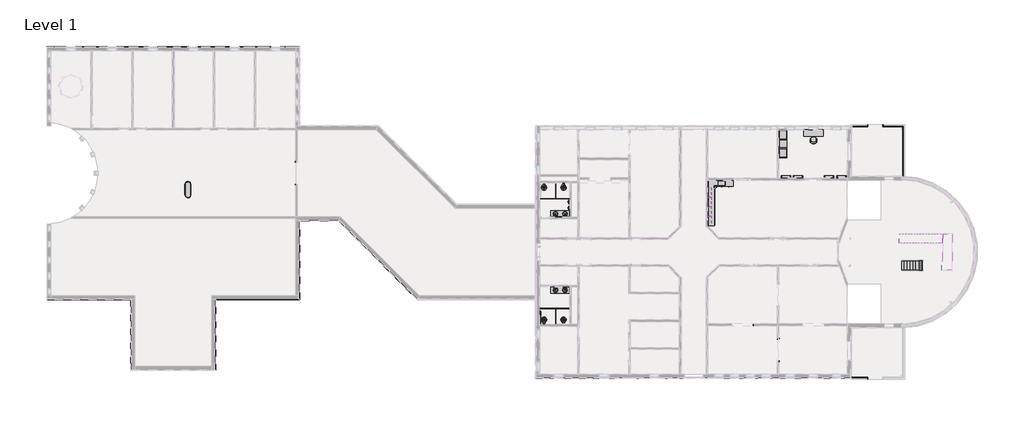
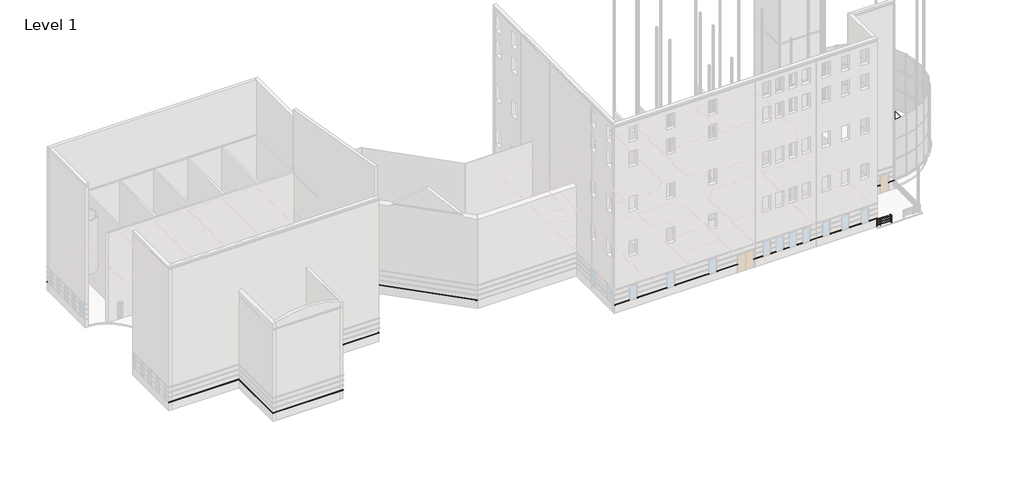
# One storey, part 15 of 16: 21 furniture elements, 21 proxies, 10 flow terminals, 3 railings, 2 stair flights, 1 slab.
"""IFC4 building model written with IfcOpenShell, lengths in millimetres."""

from ifc_helpers import new_model, si_unit, origin, place, context, project, spatial, faceted_brep, transform, mapped, element, save
from components import proxy_3a9288d3, proxy_226d7026, proxy_8b2fbeef, proxy_e5c07f1c, proxy_0c3c478f, proxy_987fb3b0, landing_landing_48b65c4f, flow_terminal_d49f872f, flow_terminal_951b6bfb, flow_terminal_ad1f76ec, flow_terminal_9b457be9, urinal_wall_3d_urinal_wall_3d_70306c78, furniture_6a014568, furniture_b6fbc004, furniture_5bfe328f, chair_executive_chair_executive_8d69e98c, corner_base_filler_corner_base_filler_53cc3308, furniture_f064a22f, furniture_7b927048, furniture_090a490d, furniture_7a7a8658, furniture_59f9536b, furniture_417d203a, furniture_ea8d62be, handrail_pipe_b2938140, handrail_pipe_65aaea4b, handrail_pipe_f52d8f37, non_monolithic_landing_d1dade7f, stair_flight_67c8fb9e, stair_flight_26c96a99

model = new_model("IFC4")

# Units and contexts
model_context = context("Model", 3, world=origin())
ifc_project = project(units=[si_unit("LENGTHUNIT", "METRE", prefix="MILLI")], contexts=[model_context])

# Site, building, storey
site = spatial("IfcSite", under=ifc_project)
building = spatial("IfcBuilding", under=site)
storey = spatial("IfcBuildingStorey", under=building, Name="Level 1", Elevation=0.0)

# Proxies
placement = place(None, origin())
element("IfcBuildingElementProxy", 1, Name="Wall Sweeps", at=placement, inside=storey, context=model_context, shape_type="Brep", body=[
    faceted_brep([(-18533.512755, -6670.8262891, 1085.85), (-18533.512755, -6762.9012891, 1085.85), (-18533.512755, -6797.8262891, 1041.4), (-18533.512755, -6797.8262891, 1016.0), (-18533.512755, -6762.9012891, 1016.0), (-18533.512755, -6670.8262891, 1016.0), (-20165.462755, -6670.8262891, 1085.85), (-20165.462755, -6670.8262891, 1016.0), (-20292.462755, -6797.8262891, 1016.0), (-20292.462755, -6797.8262891, 1041.4), (-20257.537755, -6762.9012891, 1085.85)], [[[0, 1, 2, 3, 4, 5]], [[6, 7, 8, 9, 10]], [[1, 0, 6, 10]], [[2, 1, 10, 9]], [[3, 2, 9, 8]], [[5, 4, 3, 8, 7]], [[0, 5, 7, 6]]]),
    faceted_brep([(-14163.125255, -6670.8262891, 1085.85), (-14163.125255, -6762.9012891, 1085.85), (-14163.125255, -6797.8262891, 1041.4), (-14163.125255, -6797.8262891, 1016.0), (-14163.125255, -6762.9012891, 1016.0), (-14163.125255, -6670.8262891, 1016.0), (-17619.112755, -6670.8262891, 1085.85), (-17619.112755, -6670.8262891, 1016.0), (-17619.112755, -6762.9012891, 1016.0), (-17619.112755, -6797.8262891, 1016.0), (-17619.112755, -6797.8262891, 1041.4), (-17619.112755, -6762.9012891, 1085.85)], [[[0, 1, 2, 3, 4, 5]], [[6, 7, 8, 9, 10, 11]], [[1, 0, 6, 11]], [[2, 1, 11, 10]], [[3, 2, 10, 9]], [[5, 4, 3, 9, 8, 7]], [[0, 5, 7, 6]]]),
    faceted_brep([(-9286.325255, -6670.8262891, 1085.85), (-9286.325255, -6762.9012891, 1085.85), (-9286.325255, -6797.8262891, 1041.4), (-9286.325255, -6797.8262891, 1016.0), (-9286.325255, -6762.9012891, 1016.0), (-9286.325255, -6670.8262891, 1016.0), (-13248.725255, -6670.8262891, 1085.85), (-13248.725255, -6670.8262891, 1016.0), (-13248.725255, -6762.9012891, 1016.0), (-13248.725255, -6797.8262891, 1016.0), (-13248.725255, -6797.8262891, 1041.4), (-13248.725255, -6762.9012891, 1085.85)], [[[0, 1, 2, 3, 4, 5]], [[6, 7, 8, 9, 10, 11]], [[1, 0, 6, 11]], [[2, 1, 11, 10]], [[3, 2, 10, 9]], [[5, 4, 3, 9, 8, 7]], [[0, 5, 7, 6]]]),
    faceted_brep([(-5931.937755, -6670.8262891, 1085.85), (-5931.937755, -6762.9012891, 1085.85), (-5931.937755, -6797.8262891, 1041.4), (-5931.937755, -6797.8262891, 1016.0), (-5931.937755, -6762.9012891, 1016.0), (-5931.937755, -6670.8262891, 1016.0), (-8371.925255, -6670.8262891, 1085.85), (-8371.925255, -6670.8262891, 1016.0), (-8371.925255, -6762.9012891, 1016.0), (-8371.925255, -6797.8262891, 1016.0), (-8371.925255, -6797.8262891, 1041.4), (-8371.925255, -6762.9012891, 1085.85)], [[[0, 1, 2, 3, 4, 5]], [[6, 7, 8, 9, 10, 11]], [[1, 0, 6, 11]], [[2, 1, 11, 10]], [[3, 2, 10, 9]], [[5, 4, 3, 9, 8, 7]], [[0, 5, 7, 6]]]),
    faceted_brep([(-3037.925255, -6670.8262891, 1085.85), (-3037.925255, -6762.9012891, 1085.85), (-3037.925255, -6797.8262891, 1041.4), (-3037.925255, -6797.8262891, 1016.0), (-3037.925255, -6762.9012891, 1016.0), (-3037.925255, -6670.8262891, 1016.0), (-4103.137755, -6670.8262891, 1085.85), (-4103.137755, -6670.8262891, 1016.0), (-4103.137755, -6762.9012891, 1016.0), (-4103.137755, -6797.8262891, 1016.0), (-4103.137755, -6797.8262891, 1041.4), (-4103.137755, -6762.9012891, 1085.85)], [[[0, 1, 2, 3, 4, 5]], [[6, 7, 8, 9, 10, 11]], [[1, 0, 6, 11]], [[2, 1, 11, 10]], [[3, 2, 10, 9]], [[5, 4, 3, 9, 8, 7]], [[0, 5, 7, 6]]]),
    faceted_brep([(-1509.162755, -6670.8262891, 1085.85), (-1509.162755, -6762.9012891, 1085.85), (-1509.162755, -6797.8262891, 1041.4), (-1509.162755, -6797.8262891, 1016.0), (-1509.162755, -6762.9012891, 1016.0), (-1509.162755, -6670.8262891, 1016.0), (-2123.525255, -6670.8262891, 1085.85), (-2123.525255, -6670.8262891, 1016.0), (-2123.525255, -6762.9012891, 1016.0), (-2123.525255, -6797.8262891, 1016.0), (-2123.525255, -6797.8262891, 1041.4), (-2123.525255, -6762.9012891, 1085.85)], [[[0, 1, 2, 3, 4, 5]], [[6, 7, 8, 9, 10, 11]], [[1, 0, 6, 11]], [[2, 1, 11, 10]], [[3, 2, 10, 9]], [[5, 4, 3, 9, 8, 7]], [[0, 5, 7, 6]]]),
    faceted_brep([(19.599745, -6670.8262891, 1085.85), (19.599745, -6762.9012891, 1085.85), (19.599745, -6797.8262891, 1041.4), (19.599745, -6797.8262891, 1016.0), (19.599745, -6762.9012891, 1016.0), (19.599745, -6670.8262891, 1016.0), (-594.762755, -6670.8262891, 1085.85), (-594.762755, -6670.8262891, 1016.0), (-594.762755, -6762.9012891, 1016.0), (-594.762755, -6797.8262891, 1016.0), (-594.762755, -6797.8262891, 1041.4), (-594.762755, -6762.9012891, 1085.85)], [[[0, 1, 2, 3, 4, 5]], [[6, 7, 8, 9, 10, 11]], [[1, 0, 6, 11]], [[2, 1, 11, 10]], [[3, 2, 10, 9]], [[5, 4, 3, 9, 8, 7]], [[0, 5, 7, 6]]]),
    faceted_brep([(1548.362245, -6670.8262891, 1085.85), (1548.362245, -6762.9012891, 1085.85), (1548.362245, -6797.8262891, 1041.4), (1548.362245, -6797.8262891, 1016.0), (1548.362245, -6762.9012891, 1016.0), (1548.362245, -6670.8262891, 1016.0), (933.999745, -6670.8262891, 1085.85), (933.999745, -6670.8262891, 1016.0), (933.999745, -6762.9012891, 1016.0), (933.999745, -6797.8262891, 1016.0), (933.999745, -6797.8262891, 1041.4), (933.999745, -6762.9012891, 1085.85)], [[[0, 1, 2, 3, 4, 5]], [[6, 7, 8, 9, 10, 11]], [[1, 0, 6, 11]], [[2, 1, 11, 10]], [[3, 2, 10, 9]], [[5, 4, 3, 9, 8, 7]], [[0, 5, 7, 6]]]),
    faceted_brep([(3864.524745, -6670.8262891, 1085.85), (3864.524745, -6762.9012891, 1085.85), (3864.524745, -6797.8262891, 1041.4), (3864.524745, -6797.8262891, 1016.0), (3864.524745, -6762.9012891, 1016.0), (3864.524745, -6670.8262891, 1016.0), (2462.762245, -6670.8262891, 1085.85), (2462.762245, -6670.8262891, 1016.0), (2462.762245, -6762.9012891, 1016.0), (2462.762245, -6797.8262891, 1016.0), (2462.762245, -6797.8262891, 1041.4), (2462.762245, -6762.9012891, 1085.85)], [[[0, 1, 2, 3, 4, 5]], [[6, 7, 8, 9, 10, 11]], [[1, 0, 6, 11]], [[2, 1, 11, 10]], [[3, 2, 10, 9]], [[5, 4, 3, 9, 8, 7]], [[0, 5, 7, 6]]]),
    faceted_brep([(6105.280995, -6670.8262891, 1085.85), (6105.280995, -6762.9012891, 1085.85), (6105.280995, -6797.8262891, 1041.4), (6105.280995, -6797.8262891, 1016.0), (6105.280995, -6762.9012891, 1016.0), (6105.280995, -6670.8262891, 1016.0), (4778.924745, -6670.8262891, 1085.85), (4778.924745, -6670.8262891, 1016.0), (4778.924745, -6762.9012891, 1016.0), (4778.924745, -6797.8262891, 1016.0), (4778.924745, -6797.8262891, 1041.4), (4778.924745, -6762.9012891, 1085.85)], [[[0, 1, 2, 3, 4, 5]], [[6, 7, 8, 9, 10, 11]], [[1, 0, 6, 11]], [[2, 1, 11, 10]], [[3, 2, 10, 9]], [[5, 4, 3, 9, 8, 7]], [[0, 5, 7, 6]]]),
    faceted_brep([(8346.037245, -6670.8262891, 1085.85), (8346.037245, -6762.9012891, 1085.85), (8346.037245, -6797.8262891, 1041.4), (8346.037245, -6797.8262891, 1016.0), (8346.037245, -6762.9012891, 1016.0), (8346.037245, -6670.8262891, 1016.0), (7019.680995, -6670.8262891, 1085.85), (7019.680995, -6670.8262891, 1016.0), (7019.680995, -6762.9012891, 1016.0), (7019.680995, -6797.8262891, 1016.0), (7019.680995, -6797.8262891, 1041.4), (7019.680995, -6762.9012891, 1085.85)], [[[0, 1, 2, 3, 4, 5]], [[6, 7, 8, 9, 10, 11]], [[1, 0, 6, 11]], [[2, 1, 11, 10]], [[3, 2, 10, 9]], [[5, 4, 3, 9, 8, 7]], [[0, 5, 7, 6]]]),
    faceted_brep([(10130.387245, -6670.8262891, 1085.85), (10222.462245, -6762.9012891, 1085.85), (10257.387245, -6797.8262891, 1041.4), (10257.387245, -6797.8262891, 1016.0), (10130.387245, -6670.8262891, 1016.0), (9260.437245, -6670.8262891, 1085.85), (9260.437245, -6670.8262891, 1016.0), (9260.437245, -6762.9012891, 1016.0), (9260.437245, -6797.8262891, 1016.0), (9260.437245, -6797.8262891, 1041.4), (9260.437245, -6762.9012891, 1085.85)], [[[0, 1, 2, 3, 4]], [[5, 6, 7, 8, 9, 10]], [[1, 0, 5, 10]], [[2, 1, 10, 9]], [[3, 2, 9, 8]], [[4, 3, 8, 7, 6]], [[0, 4, 6, 5]]]),
])
element("IfcBuildingElementProxy", 2, Name="Wall Sweeps", at=placement, inside=storey, context=model_context, shape_type="Brep", body=[
    faceted_brep([(10130.387245, -6670.8262891, 1085.85), (10130.387245, -6670.8262891, 1016.0), (10257.387245, -6797.8262891, 1016.0), (10257.387245, -6797.8262891, 1041.4), (10222.462245, -6762.9012891, 1085.85), (10130.387245, -5062.6887891, 1085.85), (10222.462245, -5062.6887891, 1085.85), (10257.387245, -5062.6887891, 1041.4), (10257.387245, -5062.6887891, 1016.0), (10222.462245, -5062.6887891, 1016.0), (10130.387245, -5062.6887891, 1016.0), (10130.387245, -6410.4762891, 1085.85), (10130.387245, -6410.4762891, 1016.0)], [[[0, 1, 2, 3, 4]], [[5, 6, 7, 8, 9, 10]], [[0, 4, 6, 5, 11]], [[4, 3, 7, 6]], [[3, 2, 8, 7]], [[2, 1, 12, 10, 9, 8]], [[1, 0, 11, 5, 10, 12]]]),
    faceted_brep([(10130.387245, -3233.8887891, 1085.85), (10130.387245, -3233.8887891, 1016.0), (10222.462245, -3233.8887891, 1016.0), (10257.387245, -3233.8887891, 1016.0), (10257.387245, -3233.8887891, 1041.4), (10222.462245, -3233.8887891, 1085.85), (10130.387245, -1794.0262891, 1085.85), (10222.462245, -1886.1012891, 1085.85), (10257.387245, -1921.0262891, 1041.4), (10257.387245, -1921.0262891, 1016.0), (10222.462245, -1886.1012891, 1016.0), (10130.387245, -1794.0262891, 1016.0)], [[[0, 1, 2, 3, 4, 5]], [[6, 7, 8, 9, 10, 11]], [[1, 0, 6, 11]], [[3, 2, 1, 11, 10, 9]], [[4, 3, 9, 8]], [[5, 4, 8, 7]], [[0, 5, 7, 6]]]),
])
element("IfcBuildingElementProxy", 3, Name="Wall Sweeps", at=placement, inside=storey, context=model_context, shape_type="Brep", body=[
    faceted_brep([(10130.387245, -1794.0262891, 1085.85), (10130.387245, -1794.0262891, 1016.0), (10222.462245, -1886.1012891, 1016.0), (10257.387245, -1921.0262891, 1016.0), (10257.387245, -1921.0262891, 1041.4), (10222.462245, -1886.1012891, 1085.85), (13416.512245, -1794.0262891, 1085.85), (13416.512245, -1886.1012891, 1085.85), (13416.512245, -1921.0262891, 1041.4), (13416.512245, -1921.0262891, 1016.0), (13416.512245, -1886.1012891, 1016.0), (13416.512245, -1794.0262891, 1016.0)], [[[0, 1, 2, 3, 4, 5]], [[6, 7, 8, 9, 10, 11]], [[0, 5, 7, 6]], [[5, 4, 8, 7]], [[4, 3, 9, 8]], [[3, 2, 1, 11, 10, 9]], [[1, 0, 6, 11]]]),
    faceted_brep([(14330.912245, -1794.0262891, 1085.85), (14330.912245, -1794.0262891, 1016.0), (14330.912245, -1886.1012891, 1016.0), (14330.912245, -1921.0262891, 1016.0), (14330.912245, -1921.0262891, 1041.4), (14330.912245, -1886.1012891, 1085.85), (15099.262245, -1794.0262891, 1085.85), (15099.262245, -1886.1012891, 1085.85), (15099.262245, -1921.0262891, 1041.4), (15099.262245, -1921.0262891, 1016.0), (15099.262245, -1886.1012891, 1016.0), (15099.262245, -1794.0262891, 1016.0)], [[[0, 1, 2, 3, 4, 5]], [[6, 7, 8, 9, 10, 11]], [[1, 0, 6, 11]], [[3, 2, 1, 11, 10, 9]], [[4, 3, 9, 8]], [[5, 4, 8, 7]], [[0, 5, 7, 6]]]),
])
element("IfcBuildingElementProxy", 4, Name="Wall Sweeps", at=placement, inside=storey, context=model_context, shape_type="Brep", body=[
    faceted_brep([(-43282.6023623, 25149.0237109, 1085.85), (-43282.6023623, 25149.0237109, 1016.0), (-43155.6023623, 25276.0237109, 1016.0), (-43155.6023623, 25276.0237109, 1041.4), (-43190.5273623, 25241.0987109, 1085.85), (-45015.887779, 25149.0237109, 1085.85), (-45015.887779, 25241.0987109, 1085.85), (-45015.887779, 25276.0237109, 1041.4), (-45015.887779, 25276.0237109, 1016.0), (-45015.887779, 25241.0987109, 1016.0), (-45015.887779, 25149.0237109, 1016.0), (-43542.9523623, 25149.0237109, 1085.85), (-43542.9523623, 25149.0237109, 1016.0)], [[[0, 1, 2, 3, 4]], [[5, 6, 7, 8, 9, 10]], [[1, 0, 11, 5, 10, 12]], [[2, 1, 12, 10, 9, 8]], [[3, 2, 8, 7]], [[4, 3, 7, 6]], [[0, 4, 6, 5, 11]]]),
    faceted_brep([(-45930.287779, 25149.0237109, 1085.85), (-45930.287779, 25149.0237109, 1016.0), (-45930.287779, 25241.0987109, 1016.0), (-45930.287779, 25276.0237109, 1016.0), (-45930.287779, 25276.0237109, 1041.4), (-45930.287779, 25241.0987109, 1085.85), (-48999.1898623, 25149.0237109, 1085.85), (-48999.1898623, 25241.0987109, 1085.85), (-48999.1898623, 25276.0237109, 1041.4), (-48999.1898623, 25276.0237109, 1016.0), (-48999.1898623, 25241.0987109, 1016.0), (-48999.1898623, 25149.0237109, 1016.0)], [[[0, 1, 2, 3, 4, 5]], [[6, 7, 8, 9, 10, 11]], [[1, 0, 6, 11]], [[3, 2, 1, 11, 10, 9]], [[4, 3, 9, 8]], [[5, 4, 8, 7]], [[0, 5, 7, 6]]]),
    faceted_brep([(-49913.5898623, 25149.0237109, 1085.85), (-49913.5898623, 25149.0237109, 1016.0), (-49913.5898623, 25241.0987109, 1016.0), (-49913.5898623, 25276.0237109, 1016.0), (-49913.5898623, 25276.0237109, 1041.4), (-49913.5898623, 25241.0987109, 1085.85), (-52949.9481957, 25149.0237109, 1085.85), (-52949.9481957, 25241.0987109, 1085.85), (-52949.9481957, 25276.0237109, 1041.4), (-52949.9481957, 25276.0237109, 1016.0), (-52949.9481957, 25241.0987109, 1016.0), (-52949.9481957, 25149.0237109, 1016.0)], [[[0, 1, 2, 3, 4, 5]], [[6, 7, 8, 9, 10, 11]], [[1, 0, 6, 11]], [[3, 2, 1, 11, 10, 9]], [[4, 3, 9, 8]], [[5, 4, 8, 7]], [[0, 5, 7, 6]]]),
    faceted_brep([(-53864.3481957, 25149.0237109, 1085.85), (-53864.3481957, 25149.0237109, 1016.0), (-53864.3481957, 25241.0987109, 1016.0), (-53864.3481957, 25276.0237109, 1016.0), (-53864.3481957, 25276.0237109, 1041.4), (-53864.3481957, 25241.0987109, 1085.85), (-56900.706529, 25149.0237109, 1085.85), (-56900.706529, 25241.0987109, 1085.85), (-56900.706529, 25276.0237109, 1041.4), (-56900.706529, 25276.0237109, 1016.0), (-56900.706529, 25241.0987109, 1016.0), (-56900.706529, 25149.0237109, 1016.0)], [[[0, 1, 2, 3, 4, 5]], [[6, 7, 8, 9, 10, 11]], [[1, 0, 6, 11]], [[3, 2, 1, 11, 10, 9]], [[4, 3, 9, 8]], [[5, 4, 8, 7]], [[0, 5, 7, 6]]]),
    faceted_brep([(-57815.106529, 25149.0237109, 1085.85), (-57815.106529, 25149.0237109, 1016.0), (-57815.106529, 25241.0987109, 1016.0), (-57815.106529, 25276.0237109, 1016.0), (-57815.106529, 25276.0237109, 1041.4), (-57815.106529, 25241.0987109, 1085.85), (-60851.4648623, 25149.0237109, 1085.85), (-60851.4648623, 25241.0987109, 1085.85), (-60851.4648623, 25276.0237109, 1041.4), (-60851.4648623, 25276.0237109, 1016.0), (-60851.4648623, 25241.0987109, 1016.0), (-60851.4648623, 25149.0237109, 1016.0)], [[[0, 1, 2, 3, 4, 5]], [[6, 7, 8, 9, 10, 11]], [[1, 0, 6, 11]], [[3, 2, 1, 11, 10, 9]], [[4, 3, 9, 8]], [[5, 4, 8, 7]], [[0, 5, 7, 6]]]),
    faceted_brep([(-61765.8648623, 25149.0237109, 1085.85), (-61765.8648623, 25149.0237109, 1016.0), (-61765.8648623, 25241.0987109, 1016.0), (-61765.8648623, 25276.0237109, 1016.0), (-61765.8648623, 25276.0237109, 1041.4), (-61765.8648623, 25241.0987109, 1085.85), (-64834.7669457, 25149.0237109, 1085.85), (-64834.7669457, 25241.0987109, 1085.85), (-64834.7669457, 25276.0237109, 1041.4), (-64834.7669457, 25276.0237109, 1016.0), (-64834.7669457, 25241.0987109, 1016.0), (-64834.7669457, 25149.0237109, 1016.0)], [[[0, 1, 2, 3, 4, 5]], [[6, 7, 8, 9, 10, 11]], [[1, 0, 6, 11]], [[3, 2, 1, 11, 10, 9]], [[4, 3, 9, 8]], [[5, 4, 8, 7]], [[0, 5, 7, 6]]]),
    faceted_brep([(-65749.1669457, 25149.0237109, 1085.85), (-65749.1669457, 25149.0237109, 1016.0), (-65749.1669457, 25241.0987109, 1016.0), (-65749.1669457, 25276.0237109, 1016.0), (-65749.1669457, 25276.0237109, 1041.4), (-65749.1669457, 25241.0987109, 1085.85), (-67482.4523623, 25149.0237109, 1085.85), (-67574.5273623, 25241.0987109, 1085.85), (-67609.4523623, 25276.0237109, 1041.4), (-67609.4523623, 25276.0237109, 1016.0), (-67482.4523623, 25149.0237109, 1016.0)], [[[0, 1, 2, 3, 4, 5]], [[6, 7, 8, 9, 10]], [[1, 0, 6, 10]], [[3, 2, 1, 10, 9]], [[4, 3, 9, 8]], [[5, 4, 8, 7]], [[0, 5, 7, 6]]]),
])
element("IfcBuildingElementProxy", 5, Name="Wall Sweeps", at=placement, inside=storey, context=model_context, shape_type="Brep", body=[
    faceted_brep([(-67482.4523623, 949.1737109, 1085.85), (-67482.4523623, 949.1737109, 1016.0), (-67609.4523623, 822.1737109, 1016.0), (-67609.4523623, 822.1737109, 1041.4), (-67574.5273623, 857.0987109, 1085.85), (-59354.4523623, 949.1737109, 1085.85), (-59446.5273623, 857.0987109, 1085.85), (-59481.4523623, 822.1737109, 1041.4), (-59481.4523623, 822.1737109, 1016.0), (-59354.4523623, 949.1737109, 1016.0), (-67222.1023623, 949.1737109, 1085.85), (-67222.1023623, 949.1737109, 1016.0)], [[[0, 1, 2, 3, 4]], [[5, 6, 7, 8, 9]], [[1, 0, 10, 5, 9, 11]], [[2, 1, 11, 9, 8]], [[3, 2, 8, 7]], [[4, 3, 7, 6]], [[0, 4, 6, 5, 10]]]),
    faceted_brep([(-51410.6023623, 949.1737109, 1085.85), (-51410.6023623, 949.1737109, 1016.0), (-51283.6023623, 822.1737109, 1016.0), (-51283.6023623, 822.1737109, 1041.4), (-51318.5273623, 857.0987109, 1085.85), (-43282.6023623, 949.1737109, 1085.85), (-43190.5273623, 857.0987109, 1085.85), (-43155.6023623, 822.1737109, 1041.4), (-43155.6023623, 822.1737109, 1016.0), (-43282.6023623, 949.1737109, 1016.0)], [[[0, 1, 2, 3, 4]], [[5, 6, 7, 8, 9]], [[1, 0, 5, 9]], [[2, 1, 9, 8]], [[3, 2, 8, 7]], [[4, 3, 7, 6]], [[0, 4, 6, 5]]]),
])
element("IfcBuildingElementProxy", 6, Name="Wall Sweeps", at=placement, inside=storey, context=model_context, shape_type="Brep", body=[
    faceted_brep([(-43282.6023623, 949.1737109, 1085.85), (-43282.6023623, 949.1737109, 1016.0), (-43155.6023623, 822.1737109, 1016.0), (-43155.6023623, 822.1737109, 1041.4), (-43190.5273623, 857.0987109, 1085.85), (-43282.6023623, 8569.1737109, 1085.85), (-43190.5273623, 8477.0987109, 1085.85), (-43155.6023623, 8442.1737109, 1041.4), (-43155.6023623, 8442.1737109, 1016.0), (-43282.6023623, 8569.1737109, 1016.0), (-43282.6023623, 1209.5237109, 1085.85), (-43282.6023623, 8477.0987109, 1085.85), (-43282.6023623, 8477.0987109, 1016.0), (-43282.6023623, 1209.5237109, 1016.0)], [[[0, 1, 2, 3, 4]], [[5, 6, 7, 8, 9]], [[1, 0, 10, 11, 5, 9, 12, 13]], [[2, 1, 13, 12, 9, 8]], [[3, 2, 8, 7]], [[4, 3, 7, 6]], [[0, 4, 6, 5, 11, 10]]]),
])
element("IfcBuildingElementProxy", 7, Name="Wall Sweeps", at=placement, inside=storey, context=model_context, shape_type="Brep", body=[
    faceted_brep([(-39319.9574629, 8569.1737109, 1085.85), (-39358.0961767, 8477.0987109, 1085.85), (-39372.5625853, 8442.1737109, 1041.4), (-39372.5625853, 8442.1737109, 1016.0), (-39358.0961767, 8477.0987109, 1016.0), (-39319.9574629, 8569.1737109, 1016.0), (-43282.6023623, 8569.1737109, 1085.85), (-43282.6023623, 8569.1737109, 1016.0), (-43155.6023623, 8442.1737109, 1016.0), (-43155.6023623, 8442.1737109, 1041.4), (-43190.5273623, 8477.0987109, 1085.85)], [[[0, 1, 2, 3, 4, 5]], [[6, 7, 8, 9, 10]], [[1, 0, 6, 10]], [[2, 1, 10, 9]], [[3, 2, 9, 8]], [[5, 4, 3, 8, 7]], [[0, 5, 7, 6]]]),
])
element("IfcBuildingElementProxy", 8, Name="Wall Sweeps", at=placement, inside=storey, context=model_context, shape_type="Brep", body=[
    faceted_brep([(-31699.9574629, 949.1737109, 1085.85), (-31738.0961767, 857.0987109, 1085.85), (-31752.5625853, 822.1737109, 1041.4), (-31752.5625853, 822.1737109, 1016.0), (-31738.0961767, 857.0987109, 1016.0), (-31699.9574629, 949.1737109, 1016.0), (-39319.9574629, 8569.1737109, 1085.85), (-39319.9574629, 8569.1737109, 1016.0), (-39358.0961767, 8477.0987109, 1016.0), (-39372.5625853, 8442.1737109, 1016.0), (-39372.5625853, 8442.1737109, 1041.4), (-39358.0961767, 8477.0987109, 1085.85)], [[[0, 1, 2, 3, 4, 5]], [[6, 7, 8, 9, 10, 11]], [[1, 0, 6, 11]], [[2, 1, 11, 10]], [[3, 2, 10, 9]], [[5, 4, 3, 9, 8, 7]], [[0, 5, 7, 6]]]),
])
element("IfcBuildingElementProxy", 9, Name="Wall Sweeps", at=placement, inside=storey, context=model_context, shape_type="Brep", body=[
    faceted_brep([(-51410.6023623, 949.1737109, 1085.85), (-51318.5273623, 857.0987109, 1085.85), (-51283.6023623, 822.1737109, 1041.4), (-51283.6023623, 822.1737109, 1016.0), (-51410.6023623, 949.1737109, 1016.0), (-51410.6023623, -5908.8262891, 1085.85), (-51410.6023623, -5908.8262891, 1016.0), (-51283.6023623, -6035.8262891, 1016.0), (-51283.6023623, -6035.8262891, 1041.4), (-51318.5273623, -6000.9012891, 1085.85), (-51410.6023623, 857.0987109, 1085.85), (-51410.6023623, 857.0987109, 1016.0)], [[[0, 1, 2, 3, 4]], [[5, 6, 7, 8, 9]], [[1, 0, 10, 5, 9]], [[2, 1, 9, 8]], [[3, 2, 8, 7]], [[4, 3, 7, 6, 11]], [[0, 4, 11, 6, 5, 10]]]),
])
element("IfcBuildingElementProxy", 10, Name="Wall Sweeps", at=placement, inside=storey, context=model_context, shape_type="Brep", body=[
    faceted_brep([(-59354.4523623, -5908.8262891, 1085.85), (-59446.5273623, -6000.9012891, 1085.85), (-59481.4523623, -6035.8262891, 1041.4), (-59481.4523623, -6035.8262891, 1016.0), (-59354.4523623, -5908.8262891, 1016.0), (-59354.4523623, 949.1737109, 1085.85), (-59354.4523623, 949.1737109, 1016.0), (-59481.4523623, 822.1737109, 1016.0), (-59481.4523623, 822.1737109, 1041.4), (-59446.5273623, 857.0987109, 1085.85), (-59354.4523623, 857.0987109, 1085.85), (-59354.4523623, 857.0987109, 1016.0)], [[[0, 1, 2, 3, 4]], [[5, 6, 7, 8, 9]], [[1, 0, 10, 5, 9]], [[2, 1, 9, 8]], [[3, 2, 8, 7]], [[4, 3, 7, 6, 11]], [[0, 4, 11, 6, 5, 10]]]),
])
element("IfcBuildingElementProxy", 11, Name="Wall Sweeps", at=placement, inside=storey, context=model_context, shape_type="Brep", body=[
    faceted_brep([(-59354.4523623, -5908.8262891, 1085.85), (-59354.4523623, -5908.8262891, 1016.0), (-59481.4523623, -6035.8262891, 1016.0), (-59481.4523623, -6035.8262891, 1041.4), (-59446.5273623, -6000.9012891, 1085.85), (-51410.6023623, -5908.8262891, 1085.85), (-51318.5273623, -6000.9012891, 1085.85), (-51283.6023623, -6035.8262891, 1041.4), (-51283.6023623, -6035.8262891, 1016.0), (-51410.6023623, -5908.8262891, 1016.0), (-59094.1023623, -5908.8262891, 1085.85), (-51670.9523623, -5908.8262891, 1085.85), (-51670.9523623, -5908.8262891, 1016.0), (-59094.1023623, -5908.8262891, 1016.0)], [[[0, 1, 2, 3, 4]], [[5, 6, 7, 8, 9]], [[1, 0, 10, 11, 5, 9, 12, 13]], [[2, 1, 13, 12, 9, 8]], [[3, 2, 8, 7]], [[4, 3, 7, 6]], [[0, 4, 6, 5, 11, 10]]]),
])
proxy_shape = proxy_3a9288d3(model_context)
element("IfcBuildingElementProxy", 12, Name="Grab Bar : 4'-0\" Length", ObjectType="Grab Bar : 4'-0\" Length", at=placement, inside=storey, context=model_context, shape_type="MappedRepresentation", body=[
    mapped(proxy_shape, transform((-20081.325255, -882.8012891, 0.0), x_axis=(0.0, 1.0, 0.0), y_axis=(-1.0, 0.0, 0.0), z_axis=(0.0, 0.0, 1.0))),
])
proxy_2_shape = proxy_226d7026(model_context)
element("IfcBuildingElementProxy", 13, Name="Opening-Cased : 84\" x 84\"", ObjectType="Opening-Cased : 84\" x 84\"", at=placement, inside=storey, context=model_context, shape_type="MappedRepresentation", body=[
    mapped(proxy_2_shape, transform((-43465.1648623, 13040.9100542, 0.0), x_axis=(0.0, -1.0, 0.0), y_axis=(1.0, 0.0, 0.0), z_axis=(0.0, 0.0, 1.0))),
])
element("IfcBuildingElementProxy", 14, Name="Opening-Cased : 84\" x 84\"", ObjectType="Opening-Cased : 84\" x 84\"", at=placement, inside=storey, context=model_context, shape_type="MappedRepresentation", body=[
    mapped(proxy_2_shape, transform((3162.849745, -4058.0524458, 0.0), x_axis=(0.0, -1.0, 0.0), y_axis=(1.0, 0.0, 0.0), z_axis=(0.0, 0.0, 1.0))),
])
element("IfcBuildingElementProxy", 15, Name="Opening-Cased : 84\" x 84\"", ObjectType="Opening-Cased : 84\" x 84\"", at=placement, inside=storey, context=model_context, shape_type="MappedRepresentation", body=[
    mapped(proxy_2_shape, transform((-270.6615983, -1611.4637891, 0.0), x_axis=(1.0, 0.0, 0.0), y_axis=(0.0, 1.0, 0.0), z_axis=(0.0, 0.0, 1.0))),
])
element("IfcBuildingElementProxy", 16, Name="Opening-Cased : 84\" x 84\"", ObjectType="Opening-Cased : 84\" x 84\"", at=placement, inside=storey, context=model_context, shape_type="MappedRepresentation", body=[
    mapped(proxy_2_shape, transform((6563.5259017, -1611.4637891, 0.0), x_axis=(1.0, 0.0, 0.0), y_axis=(0.0, 1.0, 0.0), z_axis=(0.0, 0.0, 1.0))),
])
proxy_3_shape = proxy_8b2fbeef(model_context)
element("IfcBuildingElementProxy", 17, Name="Toilet Stall-Accessible-Front-3D : 60\" x 60\" Clear", ObjectType="Toilet Stall-Accessible-Front-3D : 60\" x 60\" Clear", at=placement, inside=storey, context=model_context, shape_type="MappedRepresentation", body=[
    mapped(proxy_3_shape, transform((-18433.4096012, 12199.7862109, 0.0), x_axis=(-1.0, 0.0, 0.0), y_axis=(0.0, -1.0, 0.0), z_axis=(0.0, 0.0, 1.0))),
])
proxy_4_shape = proxy_e5c07f1c(model_context)
element("IfcBuildingElementProxy", 18, Name="Toilet Stall-Accessible-Front-3D : 60\" x 60\" Clear", ObjectType="Toilet Stall-Accessible-Front-3D : 60\" x 60\" Clear", at=placement, inside=storey, context=model_context, shape_type="MappedRepresentation", body=[
    mapped(proxy_4_shape, transform((-18433.4096012, -1665.4387891, 0.0), x_axis=(-1.0, 0.0, 0.0), y_axis=(0.0, -1.0, 0.0), z_axis=(0.0, 0.0, 1.0))),
])
proxy_5_shape = proxy_0c3c478f(model_context)
element("IfcBuildingElementProxy", 19, Name="Toilet Stall-Braced-3D : 54\" x 60\" Clear", ObjectType="Toilet Stall-Braced-3D : 54\" x 60\" Clear", at=placement, inside=storey, context=model_context, shape_type="MappedRepresentation", body=[
    mapped(proxy_5_shape, transform((-18074.8159088, 12199.7862109, 0.0), x_axis=(1.0, 0.0, 0.0), y_axis=(0.0, 1.0, 0.0), z_axis=(0.0, 0.0, 1.0))),
])
proxy_6_shape = proxy_987fb3b0(model_context)
element("IfcBuildingElementProxy", 20, Name="Toilet Stall-Braced-3D : 54\" x 60\" Clear", ObjectType="Toilet Stall-Braced-3D : 54\" x 60\" Clear", at=placement, inside=storey, context=model_context, shape_type="MappedRepresentation", body=[
    mapped(proxy_6_shape, transform((-18074.8159088, -1665.4387891, 0.0), x_axis=(1.0, 0.0, 0.0), y_axis=(0.0, 1.0, 0.0), z_axis=(0.0, 0.0, 1.0))),
])
landing_landing_shape = landing_landing_48b65c4f(model_context)
element("IfcBuildingElementProxy", 21, Name="landing : landing", ObjectType="landing : landing", at=placement, inside=storey, context=model_context, shape_type="MappedRepresentation", body=[
    mapped(landing_landing_shape, transform((-53906.1523623, 11452.0737109, 0.0), x_axis=(0.0, 1.0, 0.0), y_axis=(-1.0, 0.0, 0.0), z_axis=(0.0, 0.0, 1.0))),
])

# Flow terminals
flow_terminal_shape = flow_terminal_d49f872f(model_context)
element("IfcFlowTerminal", 22, ObjectType="Sink Vanity-Round : 19\" x 19\"", at=placement, inside=storey, context=model_context, shape_type="MappedRepresentation", body=[
    mapped(flow_terminal_shape, transform((-17373.2360144, 9203.7677185, 0.0), x_axis=(-1.0, 0.0, 0.0), y_axis=(0.0, -1.0, 0.0), z_axis=(0.0, 0.0, 1.0))),
])
element("IfcFlowTerminal", 23, ObjectType="Sink Vanity-Round : 19\" x 19\"", at=placement, inside=storey, context=model_context, shape_type="MappedRepresentation", body=[
    mapped(flow_terminal_shape, transform((-18287.6360144, 9203.7677185, 0.0), x_axis=(-1.0, 0.0, 0.0), y_axis=(0.0, -1.0, 0.0), z_axis=(0.0, 0.0, 1.0))),
])
flow_terminal_2_shape = flow_terminal_951b6bfb(model_context)
element("IfcFlowTerminal", 24, ObjectType="Sink Vanity-Round : 19\" x 19\"", at=placement, inside=storey, context=model_context, shape_type="MappedRepresentation", body=[
    mapped(flow_terminal_2_shape, transform((-17373.2360144, 1654.4297033, 0.0), x_axis=(-1.0, 0.0, 0.0), y_axis=(0.0, -1.0, 0.0), z_axis=(0.0, 0.0, 1.0))),
])
element("IfcFlowTerminal", 25, ObjectType="Sink Vanity-Round : 19\" x 19\"", at=placement, inside=storey, context=model_context, shape_type="MappedRepresentation", body=[
    mapped(flow_terminal_2_shape, transform((-18287.6360144, 1654.4297033, 0.0), x_axis=(-1.0, 0.0, 0.0), y_axis=(0.0, -1.0, 0.0), z_axis=(0.0, 0.0, 1.0))),
])
flow_terminal_3_shape = flow_terminal_ad1f76ec(model_context)
element("IfcFlowTerminal", 26, ObjectType="Toilet-Commercial-Wall-3D : 19\" Seat Height", at=placement, inside=storey, context=model_context, shape_type="MappedRepresentation", body=[
    mapped(flow_terminal_3_shape, transform((-19093.8096012, 12199.7862109, 0.0), x_axis=(-1.0, 0.0, 0.0), y_axis=(0.0, -1.0, 0.0), z_axis=(0.0, 0.0, 1.0))),
])
element("IfcFlowTerminal", 27, ObjectType="Toilet-Commercial-Wall-3D : 19\" Seat Height", at=placement, inside=storey, context=model_context, shape_type="MappedRepresentation", body=[
    mapped(flow_terminal_3_shape, transform((-17201.5096012, 12199.7862109, 0.0), x_axis=(-1.0, 0.0, 0.0), y_axis=(0.0, -1.0, 0.0), z_axis=(0.0, 0.0, 1.0))),
])
flow_terminal_4_shape = flow_terminal_9b457be9(model_context)
element("IfcFlowTerminal", 28, ObjectType="Toilet-Commercial-Wall-3D : 19\" Seat Height", at=placement, inside=storey, context=model_context, shape_type="MappedRepresentation", body=[
    mapped(flow_terminal_4_shape, transform((-19093.8096012, -1665.4387891, 0.0), x_axis=(-1.0, 0.0, 0.0), y_axis=(0.0, -1.0, 0.0), z_axis=(0.0, 0.0, 1.0))),
])
element("IfcFlowTerminal", 29, ObjectType="Toilet-Commercial-Wall-3D : 19\" Seat Height", at=placement, inside=storey, context=model_context, shape_type="MappedRepresentation", body=[
    mapped(flow_terminal_4_shape, transform((-17201.5096012, -1665.4387891, 0.0), x_axis=(-1.0, 0.0, 0.0), y_axis=(0.0, -1.0, 0.0), z_axis=(0.0, 0.0, 1.0))),
])
urinal_wall_3d_urinal_wall_3d_shape = urinal_wall_3d_urinal_wall_3d_70306c78(model_context)
element("IfcFlowTerminal", 30, ObjectType="Urinal-Wall-3D : Urinal-Wall-3D", at=placement, inside=storey, context=model_context, shape_type="MappedRepresentation", body=[
    mapped(urinal_wall_3d_urinal_wall_3d_shape, transform((-16934.900255, 10376.8733108, 0.0), x_axis=(0.0, 1.0, 0.0), y_axis=(-1.0, 0.0, 0.0), z_axis=(0.0, 0.0, 1.0))),
])
element("IfcFlowTerminal", 31, ObjectType="Urinal-Wall-3D : Urinal-Wall-3D", at=placement, inside=storey, context=model_context, shape_type="MappedRepresentation", body=[
    mapped(urinal_wall_3d_urinal_wall_3d_shape, transform((-16934.900255, 9792.6733108, 0.0), x_axis=(0.0, 1.0, 0.0), y_axis=(-1.0, 0.0, 0.0), z_axis=(0.0, 0.0, 1.0))),
])

# Furniture
furniture_shape = furniture_6a014568(model_context)
element("IfcFurniture", 32, ObjectType="Base Cabinet-Single Door & Drawer : 24\"", at=placement, inside=storey, context=model_context, shape_type="MappedRepresentation", body=[
    mapped(furniture_shape, transform((-1642.2004599, 12391.8737109, 0.0), x_axis=(1.0, 0.0, 0.0), y_axis=(0.0, 1.0, 0.0), z_axis=(0.0, 0.0, 1.0))),
])
furniture_2_shape = furniture_b6fbc004(model_context)
element("IfcFurniture", 33, ObjectType="Base Cabinet-Double Door & 2 Drawer : 36\"", at=placement, inside=storey, context=model_context, shape_type="MappedRepresentation", body=[
    mapped(furniture_2_shape, transform((-3617.362755, 8420.9253853, 0.0), x_axis=(0.0, 1.0, 0.0), y_axis=(-1.0, 0.0, 0.0), z_axis=(0.0, 0.0, 1.0))),
])
element("IfcFurniture", 34, ObjectType="Base Cabinet-Double Door & 2 Drawer : 36\"", at=placement, inside=storey, context=model_context, shape_type="MappedRepresentation", body=[
    mapped(furniture_2_shape, transform((-3617.362755, 9335.3253853, 0.0), x_axis=(0.0, 1.0, 0.0), y_axis=(-1.0, 0.0, 0.0), z_axis=(0.0, 0.0, 1.0))),
])
element("IfcFurniture", 35, ObjectType="Base Cabinet-Double Door & 2 Drawer : 36\"", at=placement, inside=storey, context=model_context, shape_type="MappedRepresentation", body=[
    mapped(furniture_2_shape, transform((-3617.362755, 10249.7253853, 0.0), x_axis=(0.0, 1.0, 0.0), y_axis=(-1.0, 0.0, 0.0), z_axis=(0.0, 0.0, 1.0))),
])
element("IfcFurniture", 36, ObjectType="Base Cabinet-Double Door & 2 Drawer : 36\"", at=placement, inside=storey, context=model_context, shape_type="MappedRepresentation", body=[
    mapped(furniture_2_shape, transform((-3617.362755, 11164.1253853, 0.0), x_axis=(0.0, 1.0, 0.0), y_axis=(-1.0, 0.0, 0.0), z_axis=(0.0, 0.0, 1.0))),
])
furniture_3_shape = furniture_5bfe328f(model_context)
element("IfcFurniture", 37, ObjectType="Base Cabinet-Double Door Sink Unit : 30\"", at=placement, inside=storey, context=model_context, shape_type="MappedRepresentation", body=[
    mapped(furniture_3_shape, transform((-2328.0004599, 12391.8737109, 0.0), x_axis=(1.0, 0.0, 0.0), y_axis=(0.0, 1.0, 0.0), z_axis=(0.0, 0.0, 1.0))),
])
chair_executive_chair_executive_shape = chair_executive_chair_executive_8d69e98c(model_context)
element("IfcFurniture", 38, ObjectType="Chair-Executive : Chair-Executive", at=placement, inside=storey, context=model_context, shape_type="MappedRepresentation", body=[
    mapped(chair_executive_chair_executive_shape, transform((6452.4464253, 16259.1278093, 0.0), x_axis=(1.0, 0.0, 0.0), y_axis=(0.0, 1.0, 0.0), z_axis=(0.0, 0.0, 1.0))),
])
corner_base_filler_corner_base_filler_shape = corner_base_filler_corner_base_filler_53cc3308(model_context)
element("IfcFurniture", 39, ObjectType="Corner Base Filler : Corner Base Filler", at=placement, inside=storey, context=model_context, shape_type="MappedRepresentation", body=[
    mapped(corner_base_filler_corner_base_filler_shape, transform((-3043.322755, 11640.0630902, 0.0), x_axis=(1.0, 0.0, 0.0), y_axis=(0.0, 1.0, 0.0), z_axis=(0.0, 0.0, 1.0))),
])
furniture_4_shape = furniture_f064a22f(model_context)
element("IfcFurniture", 40, ObjectType="Counter Top-L Shaped w Sink Hole 2 : 24\" Depth", at=placement, inside=storey, context=model_context, shape_type="MappedRepresentation", body=[
    mapped(furniture_4_shape, transform((-2442.3004599, 12417.2737109, 0.0), x_axis=(1.0, 0.0, 0.0), y_axis=(0.0, 1.0, 0.0), z_axis=(0.0, 0.0, 1.0))),
])
furniture_5_shape = furniture_7b927048(model_context)
element("IfcFurniture", 41, ObjectType="Credenza : 72\" x 24\"", at=placement, inside=storey, context=model_context, shape_type="MappedRepresentation", body=[
    mapped(furniture_5_shape, transform((6533.8929827, 16959.293383, 0.0), x_axis=(1.0, 0.0, 0.0), y_axis=(0.0, 1.0, 0.0), z_axis=(0.0, 0.0, 1.0))),
])
furniture_6_shape = furniture_090a490d(model_context)
element("IfcFurniture", 42, ObjectType="Double sink - round : 24\" Depth", at=placement, inside=storey, context=model_context, shape_type="MappedRepresentation", body=[
    mapped(furniture_6_shape, transform((-18340.1500501, 8801.1, 0.0), x_axis=(-1.0, 0.0, 0.0), y_axis=(0.0, -1.0, 0.0), z_axis=(0.0, 0.0, 1.0))),
])
furniture_7_shape = furniture_7a7a8658(model_context)
element("IfcFurniture", 43, ObjectType="Double sink - round : 24\" Depth", at=placement, inside=storey, context=model_context, shape_type="MappedRepresentation", body=[
    mapped(furniture_7_shape, transform((-18340.1500501, 2057.0974218, 0.0), x_axis=(-1.0, 0.0, 0.0), y_axis=(0.0, -1.0, 0.0), z_axis=(0.0, 0.0, 1.0))),
])
furniture_8_shape = furniture_59f9536b(model_context)
element("IfcFurniture", 44, ObjectType="Entertainment Center : 96\" x 84\" x 30\"", at=placement, inside=storey, context=model_context, shape_type="MappedRepresentation", body=[
    mapped(furniture_8_shape, transform((3215.237245, 15897.0737109, 0.0), x_axis=(0.0, 1.0, 0.0), y_axis=(-1.0, 0.0, 0.0), z_axis=(0.0, 0.0, 1.0))),
])
furniture_9_shape = furniture_417d203a(model_context)
element("IfcFurniture", 45, ObjectType="Shelving : 36\" x 10\" x 72\"", at=placement, inside=storey, context=model_context, shape_type="MappedRepresentation", body=[
    mapped(furniture_9_shape, transform((3915.007245, 12979.2487109, 0.0), x_axis=(1.0, 0.0, 0.0), y_axis=(0.0, 1.0, 0.0), z_axis=(0.0, 0.0, 1.0))),
])
element("IfcFurniture", 46, ObjectType="Shelving : 36\" x 10\" x 72\"", at=placement, inside=storey, context=model_context, shape_type="MappedRepresentation", body=[
    mapped(furniture_9_shape, transform((5069.437245, 12999.8862109, 0.0), x_axis=(1.0, 0.0, 0.0), y_axis=(0.0, 1.0, 0.0), z_axis=(0.0, 0.0, 1.0))),
])
element("IfcFurniture", 47, ObjectType="Shelving : 36\" x 10\" x 72\"", at=placement, inside=storey, context=model_context, shape_type="MappedRepresentation", body=[
    mapped(furniture_9_shape, transform((8092.037245, 12979.2487109, 0.0), x_axis=(1.0, 0.0, 0.0), y_axis=(0.0, 1.0, 0.0), z_axis=(0.0, 0.0, 1.0))),
])
element("IfcFurniture", 48, ObjectType="Shelving : 36\" x 10\" x 72\"", at=placement, inside=storey, context=model_context, shape_type="MappedRepresentation", body=[
    mapped(furniture_9_shape, transform((9285.837245, 12979.2487109, 0.0), x_axis=(1.0, 0.0, 0.0), y_axis=(0.0, 1.0, 0.0), z_axis=(0.0, 0.0, 1.0))),
])
furniture_10_shape = furniture_ea8d62be(model_context)
element("IfcFurniture", 49, ObjectType="Upper Cabinet-Double Door-Wall : 36\"", at=placement, inside=storey, context=model_context, shape_type="MappedRepresentation", body=[
    mapped(furniture_10_shape, transform((-3720.550255, 8469.434253, 0.0), x_axis=(0.0, -1.0, 0.0), y_axis=(1.0, 0.0, 0.0), z_axis=(0.0, 0.0, 1.0))),
])
element("IfcFurniture", 50, ObjectType="Upper Cabinet-Double Door-Wall : 36\"", at=placement, inside=storey, context=model_context, shape_type="MappedRepresentation", body=[
    mapped(furniture_10_shape, transform((-3720.550255, 9383.834253, 0.0), x_axis=(0.0, -1.0, 0.0), y_axis=(1.0, 0.0, 0.0), z_axis=(0.0, 0.0, 1.0))),
])
element("IfcFurniture", 51, ObjectType="Upper Cabinet-Double Door-Wall : 36\"", at=placement, inside=storey, context=model_context, shape_type="MappedRepresentation", body=[
    mapped(furniture_10_shape, transform((-3720.550255, 10298.234253, 0.0), x_axis=(0.0, -1.0, 0.0), y_axis=(1.0, 0.0, 0.0), z_axis=(0.0, 0.0, 1.0))),
])
element("IfcFurniture", 52, ObjectType="Upper Cabinet-Double Door-Wall : 36\"", at=placement, inside=storey, context=model_context, shape_type="MappedRepresentation", body=[
    mapped(furniture_10_shape, transform((-3720.550255, 11212.634253, 0.0), x_axis=(0.0, -1.0, 0.0), y_axis=(1.0, 0.0, 0.0), z_axis=(0.0, 0.0, 1.0))),
])

# Railings
handrail_pipe_shape = handrail_pipe_b2938140(model_context)
element("IfcRailing", 53, ObjectType="Handrail - Pipe", at=placement, inside=storey, context=model_context, shape_type="MappedRepresentation", body=[
    mapped(handrail_pipe_shape, transform((0.0, 0.0, 0.0), x_axis=(1.0, 0.0, 0.0), y_axis=(0.0, 1.0, 0.0), z_axis=(0.0, 0.0, 1.0))),
])
handrail_pipe_2_shape = handrail_pipe_65aaea4b(model_context)
element("IfcRailing", 54, ObjectType="Handrail - Pipe", at=placement, inside=storey, context=model_context, shape_type="MappedRepresentation", body=[
    mapped(handrail_pipe_2_shape, transform((0.0, 0.0, 0.0), x_axis=(1.0, 0.0, 0.0), y_axis=(0.0, 1.0, 0.0), z_axis=(0.0, 0.0, 1.0))),
])
handrail_pipe_3_shape = handrail_pipe_f52d8f37(model_context)
element("IfcRailing", 55, ObjectType="Handrail - Pipe", at=placement, inside=storey, context=model_context, shape_type="MappedRepresentation", body=[
    mapped(handrail_pipe_3_shape, transform((0.0, 0.0, 0.0), x_axis=(1.0, 0.0, 0.0), y_axis=(0.0, 1.0, 0.0), z_axis=(0.0, 0.0, 1.0))),
])

# Slab
non_monolithic_landing_shape = non_monolithic_landing_d1dade7f(model_context)
element("IfcSlab", 56, ObjectType="Non-Monolithic Landing", at=placement, inside=storey, context=model_context, shape_type="MappedRepresentation", body=[
    mapped(non_monolithic_landing_shape, transform((0.0, 0.0, 0.0), x_axis=(1.0, 0.0, 0.0), y_axis=(0.0, 1.0, 0.0), z_axis=(0.0, 0.0, 1.0))),
])

# Stair flights
stair_flight_shape = stair_flight_67c8fb9e(model_context)
element("IfcStairFlight", 57, ObjectType="2\" Tread 1\" Nosing 1/4\" Riser", at=placement, inside=storey, context=model_context, shape_type="MappedRepresentation", body=[
    mapped(stair_flight_shape, transform((0.0, 0.0, 0.0), x_axis=(1.0, 0.0, 0.0), y_axis=(0.0, 1.0, 0.0), z_axis=(0.0, 0.0, 1.0))),
])
stair_flight_2_shape = stair_flight_26c96a99(model_context)
element("IfcStairFlight", 58, ObjectType="2\" Tread 1\" Nosing 1/4\" Riser", at=placement, inside=storey, context=model_context, shape_type="MappedRepresentation", body=[
    mapped(stair_flight_2_shape, transform((0.0, 0.0, 0.0), x_axis=(1.0, 0.0, 0.0), y_axis=(0.0, 1.0, 0.0), z_axis=(0.0, 0.0, 1.0))),
])

save(model, "model.ifc")
